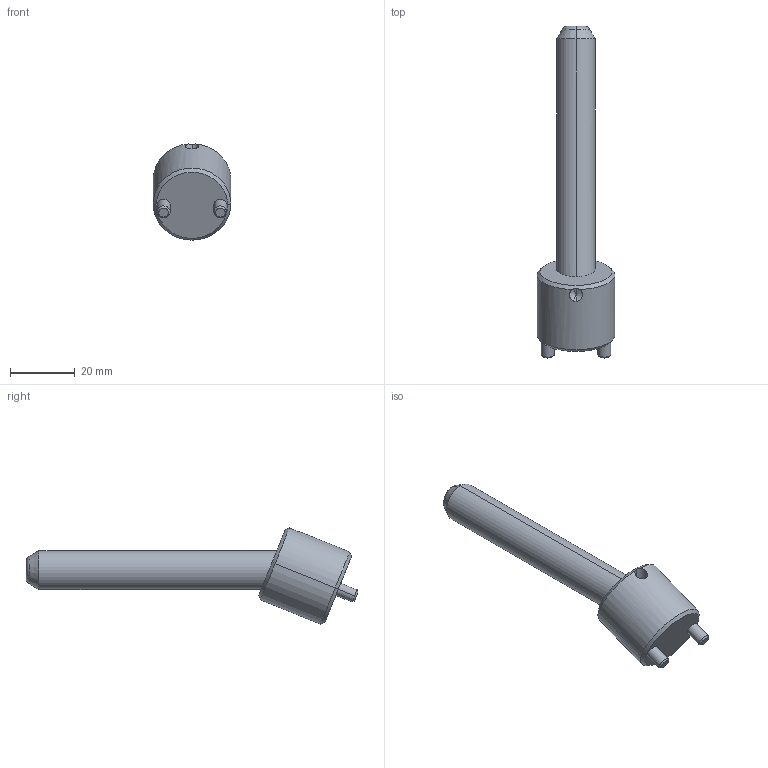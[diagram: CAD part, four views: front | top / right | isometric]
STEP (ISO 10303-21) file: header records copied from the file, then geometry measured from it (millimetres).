
FILE_DESCRIPTION(('CATIA V5 STEP Exchange'),'2;1');
FILE_NAME('C:\Users\Raffaele\Desktop\3D BOLEX\3D FILES CF BOLEX\19-INCLINED ASSEMBLY REF_CI\CI2212075.stp','2019-06-21T10:20:15+00:00',('none'),('none'),'CATIA Version 5 Release 20 GA (IN-10)','CATIA V5 STEP AP203','none');
FILE_SCHEMA(('CONFIG_CONTROL_DESIGN'));
Length unit declared in the file: millimetre
Products named in the file (1): CI2212075
Assembly tree (2 placements, depth 2):
  CI2212075
    #58
    #578
Bounding box: 24 x 102.46 x 29.7 mm (x, y, z)
Volume: 18202.1 mm3; surface area: 7010.6 mm2
Topology: 2 solids, 2 shells, 39 faces, 85 edges, 49 vertices
Faces by surface type: cone 14, cylinder 14, plane 7, torus 4
Entity records: 1497 total; most frequent: CARTESIAN_POINT 626, ORIENTED_EDGE 166, DIRECTION 145, EDGE_CURVE 83, AXIS2_PLACEMENT_3D 72, VERTEX_POINT 49, EDGE_LOOP 42, ADVANCED_FACE 39
